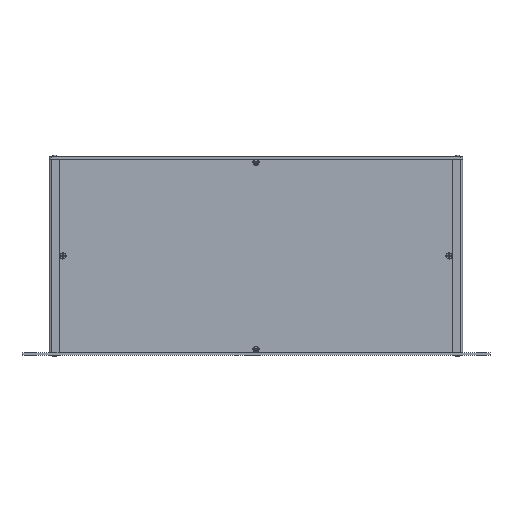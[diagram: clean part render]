
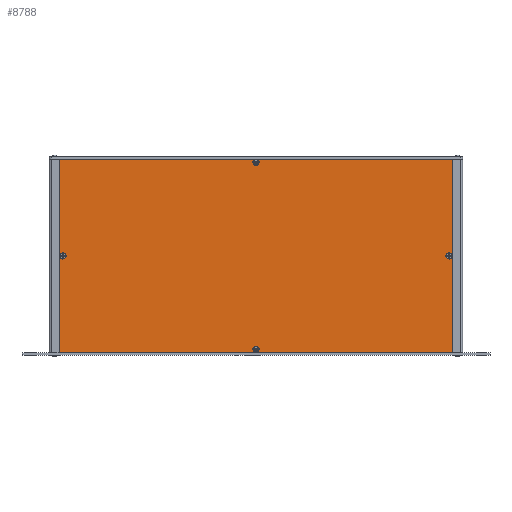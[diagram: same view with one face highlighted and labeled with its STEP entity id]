
A CAD part, top view. The second image highlights one B-rep face of the part: STEP entity #8788.
In plain terms, the highlighted planar face has unit normal (0, 0, 1).
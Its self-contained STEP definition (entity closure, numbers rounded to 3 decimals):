
#715=FACE_BOUND('',#1791,.T.);
#716=FACE_BOUND('',#1792,.T.);
#717=FACE_BOUND('',#1793,.T.);
#718=FACE_BOUND('',#1794,.T.);
#962=PLANE('',#9648);
#1252=FACE_OUTER_BOUND('',#1790,.T.);
#1790=EDGE_LOOP('',(#6665,#6666,#6667,#6668));
#1791=EDGE_LOOP('',(#6669));
#1792=EDGE_LOOP('',(#6670));
#1793=EDGE_LOOP('',(#6671));
#1794=EDGE_LOOP('',(#6672));
#2593=LINE('',#13856,#3283);
#2594=LINE('',#13858,#3284);
#2595=LINE('',#13860,#3285);
#2596=LINE('',#13861,#3286);
#3283=VECTOR('',#11083,10.);
#3284=VECTOR('',#11084,10.);
#3285=VECTOR('',#11085,10.);
#3286=VECTOR('',#11086,10.);
#3783=CIRCLE('',#9644,3.2);
#3786=CIRCLE('',#9649,3.2);
#3787=CIRCLE('',#9650,3.2);
#3788=CIRCLE('',#9651,3.2);
#4310=VERTEX_POINT('',#13844);
#4313=VERTEX_POINT('',#13854);
#4314=VERTEX_POINT('',#13855);
#4315=VERTEX_POINT('',#13857);
#4316=VERTEX_POINT('',#13859);
#4317=VERTEX_POINT('',#13862);
#4318=VERTEX_POINT('',#13864);
#4319=VERTEX_POINT('',#13866);
#5162=EDGE_CURVE('',#4310,#4310,#3783,.T.);
#5167=EDGE_CURVE('',#4313,#4314,#2593,.T.);
#5168=EDGE_CURVE('',#4314,#4315,#2594,.T.);
#5169=EDGE_CURVE('',#4316,#4315,#2595,.T.);
#5170=EDGE_CURVE('',#4313,#4316,#2596,.T.);
#5171=EDGE_CURVE('',#4317,#4317,#3786,.T.);
#5172=EDGE_CURVE('',#4318,#4318,#3787,.T.);
#5173=EDGE_CURVE('',#4319,#4319,#3788,.T.);
#6665=ORIENTED_EDGE('',*,*,#5167,.T.);
#6666=ORIENTED_EDGE('',*,*,#5168,.T.);
#6667=ORIENTED_EDGE('',*,*,#5169,.F.);
#6668=ORIENTED_EDGE('',*,*,#5170,.F.);
#6669=ORIENTED_EDGE('',*,*,#5171,.F.);
#6670=ORIENTED_EDGE('',*,*,#5172,.F.);
#6671=ORIENTED_EDGE('',*,*,#5173,.F.);
#6672=ORIENTED_EDGE('',*,*,#5162,.F.);
#8788=ADVANCED_FACE('',(#1252,#715,#716,#717,#718),#962,.T.);
#9644=AXIS2_PLACEMENT_3D('',#13845,#11071,#11072);
#9648=AXIS2_PLACEMENT_3D('',#13853,#11081,#11082);
#9649=AXIS2_PLACEMENT_3D('',#13863,#11087,#11088);
#9650=AXIS2_PLACEMENT_3D('',#13865,#11089,#11090);
#9651=AXIS2_PLACEMENT_3D('',#13867,#11091,#11092);
#11071=DIRECTION('center_axis',(0.,0.,1.));
#11072=DIRECTION('ref_axis',(-1.,0.,0.));
#11081=DIRECTION('center_axis',(0.,0.,1.));
#11082=DIRECTION('ref_axis',(1.,0.,0.));
#11083=DIRECTION('',(1.,0.,0.));
#11084=DIRECTION('',(0.,1.,0.));
#11085=DIRECTION('',(1.,0.,0.));
#11086=DIRECTION('',(0.,1.,0.));
#11087=DIRECTION('center_axis',(0.,0.,1.));
#11088=DIRECTION('ref_axis',(-1.,0.,0.));
#11089=DIRECTION('center_axis',(0.,0.,1.));
#11090=DIRECTION('ref_axis',(-1.,0.,0.));
#11091=DIRECTION('center_axis',(0.,0.,1.));
#11092=DIRECTION('ref_axis',(-1.,0.,0.));
#13844=CARTESIAN_POINT('',(45.5,100.,-42.05));
#13845=CARTESIAN_POINT('Origin',(42.3,100.,-42.05));
#13853=CARTESIAN_POINT('Origin',(38.4,0.,-42.05));
#13854=CARTESIAN_POINT('',(38.4,0.,-42.05));
#13855=CARTESIAN_POINT('',(444.6,0.,-42.05));
#13856=CARTESIAN_POINT('',(38.4,0.,-42.05));
#13857=CARTESIAN_POINT('',(444.6,200.,-42.05));
#13858=CARTESIAN_POINT('',(444.6,0.,-42.05));
#13859=CARTESIAN_POINT('',(38.4,200.,-42.05));
#13860=CARTESIAN_POINT('',(38.4,200.,-42.05));
#13861=CARTESIAN_POINT('',(38.4,0.,-42.05));
#13862=CARTESIAN_POINT('',(443.9,100.,-42.05));
#13863=CARTESIAN_POINT('Origin',(440.7,100.,-42.05));
#13864=CARTESIAN_POINT('',(244.7,196.5,-42.05));
#13865=CARTESIAN_POINT('Origin',(241.5,196.5,-42.05));
#13866=CARTESIAN_POINT('',(244.7,3.5,-42.05));
#13867=CARTESIAN_POINT('Origin',(241.5,3.5,-42.05));
